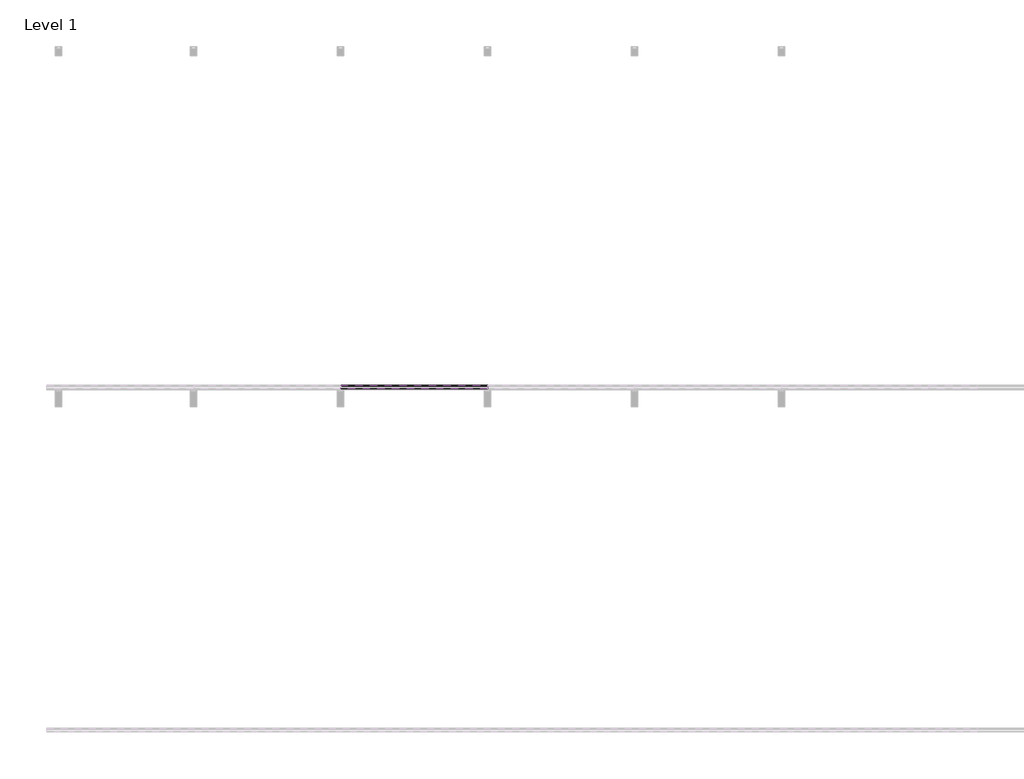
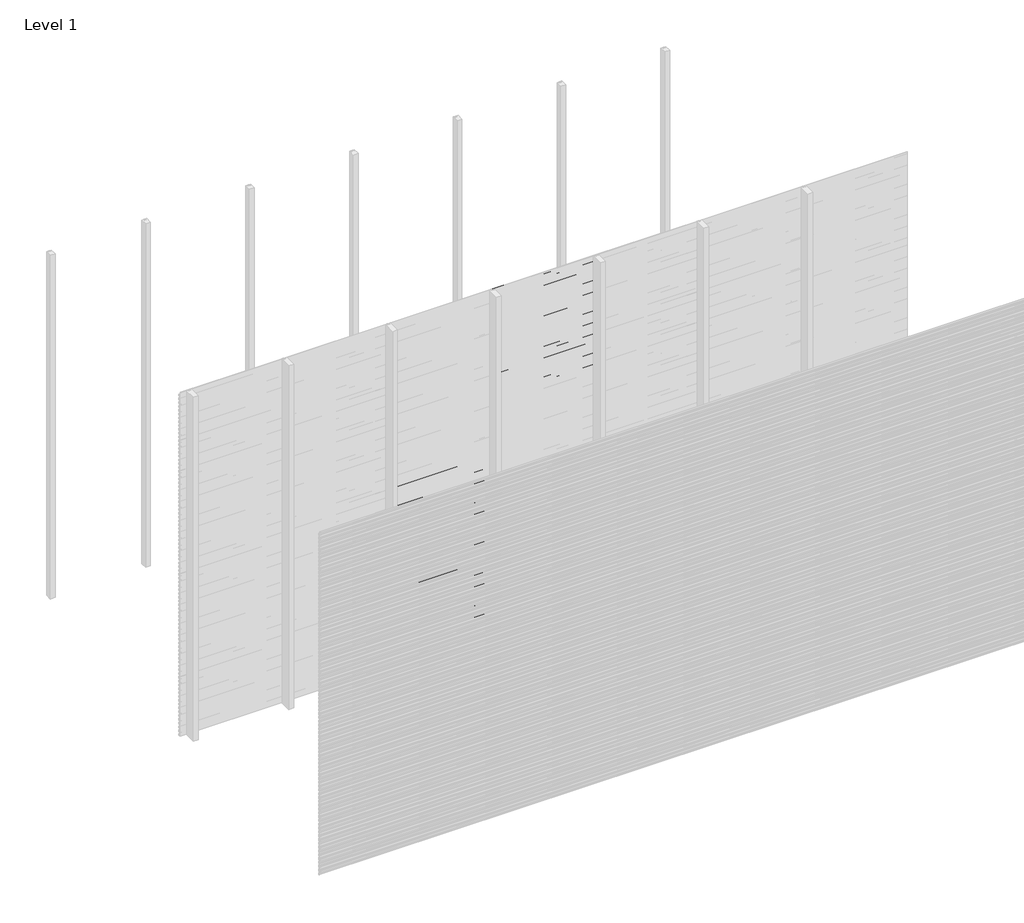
# One storey, part 36 of 96: 77 proxies.
"""IFC4 building model written with IfcOpenShell, lengths in millimetres."""

from ifc_helpers import new_model, si_unit, frame, origin, place, context, project, spatial, polyline, outline, extrude, element, save

model = new_model("IFC4")

# Units and contexts
model_context = context("Model", 3, world=origin())
ifc_project = project(units=[si_unit("LENGTHUNIT", "METRE", prefix="MILLI")], contexts=[model_context])

# Site, building, storey
site = spatial("IfcSite", under=ifc_project)
building = spatial("IfcBuilding", under=site)
storey = spatial("IfcBuildingStorey", under=building, Name="Level 1", Elevation=0.0)

# Proxies
placement = place(None, origin())
element("IfcBuildingElementProxy", 1, Name="Wall Sweeps", at=placement, inside=storey, context=model_context, shape_type="SweptSolid", body=[
    extrude(outline(polyline([(-35977.6, 1573.1655033), (-35977.6, 1558.8779188), (-35982.4114965, 1556.1), (-35982.4114965, 1557.3701706), (-35978.85, 1559.4264016), (-35978.85, 1572.4437382), (-35998.0, 1583.5000799), (-35998.0, 1598.4), (-35996.75, 1598.4), (-35996.75, 1584.2217609), (-35977.6, 1573.1655033)])), frame((1714.2857143, 0.0, 0.0), z_axis=(1.0, 0.0, 0.0), x_axis=(0.0, 1.0, 0.0)), (0.0, 0.0, 1.0), 857.1428571),
])
element("IfcBuildingElementProxy", 2, Name="Wall Sweeps", at=placement, inside=storey, context=model_context, shape_type="SweptSolid", body=[
    extrude(outline(polyline([(-35977.6, 1539.8655033), (-35977.6, 1525.5779188), (-35982.4114965, 1522.8), (-35982.4114965, 1524.0701706), (-35978.85, 1526.1264016), (-35978.85, 1539.1437382), (-35998.0, 1550.2000799), (-35998.0, 1565.1), (-35996.75, 1565.1), (-35996.75, 1550.9217609), (-35977.6, 1539.8655033)])), frame((1714.2857143, 0.0, 0.0), z_axis=(1.0, 0.0, 0.0), x_axis=(0.0, 1.0, 0.0)), (0.0, 0.0, 1.0), 857.1428571),
])
element("IfcBuildingElementProxy", 3, Name="Wall Sweeps", at=placement, inside=storey, context=model_context, shape_type="SweptSolid", body=[
    extrude(outline(polyline([(-35977.6, 1506.5655033), (-35977.6, 1492.2779188), (-35982.4114965, 1489.5), (-35982.4114965, 1490.7701706), (-35978.85, 1492.8264016), (-35978.85, 1505.8437382), (-35998.0, 1516.9000799), (-35998.0, 1531.8), (-35996.75, 1531.8), (-35996.75, 1517.6217609), (-35977.6, 1506.5655033)])), frame((1714.2857143, 0.0, 0.0), z_axis=(1.0, 0.0, 0.0), x_axis=(0.0, 1.0, 0.0)), (0.0, 0.0, 1.0), 857.1428571),
])
element("IfcBuildingElementProxy", 4, Name="Wall Sweeps", at=placement, inside=storey, context=model_context, shape_type="SweptSolid", body=[
    extrude(outline(polyline([(-35977.6, 1473.2655033), (-35977.6, 1458.9779188), (-35982.4114965, 1456.2), (-35982.4114965, 1457.4701706), (-35978.85, 1459.5264016), (-35978.85, 1472.5437382), (-35998.0, 1483.6000799), (-35998.0, 1498.5), (-35996.75, 1498.5), (-35996.75, 1484.3217609), (-35977.6, 1473.2655033)])), frame((1714.2857143, 0.0, 0.0), z_axis=(1.0, 0.0, 0.0), x_axis=(0.0, 1.0, 0.0)), (0.0, 0.0, 1.0), 857.1428571),
])
element("IfcBuildingElementProxy", 5, Name="Wall Sweeps", at=placement, inside=storey, context=model_context, shape_type="SweptSolid", body=[
    extrude(outline(polyline([(-35977.6, 1439.9655033), (-35977.6, 1425.6779188), (-35982.4114965, 1422.9), (-35982.4114965, 1424.1701706), (-35978.85, 1426.2264016), (-35978.85, 1439.2437382), (-35998.0, 1450.3000799), (-35998.0, 1465.2), (-35996.75, 1465.2), (-35996.75, 1451.0217609), (-35977.6, 1439.9655033)])), frame((1714.2857143, 0.0, 0.0), z_axis=(1.0, 0.0, 0.0), x_axis=(0.0, 1.0, 0.0)), (0.0, 0.0, 1.0), 857.1428571),
])
element("IfcBuildingElementProxy", 6, Name="Wall Sweeps", at=placement, inside=storey, context=model_context, shape_type="SweptSolid", body=[
    extrude(outline(polyline([(-35977.6, 1406.6655033), (-35977.6, 1392.3779188), (-35982.4114965, 1389.6), (-35982.4114965, 1390.8701706), (-35978.85, 1392.9264016), (-35978.85, 1405.9437382), (-35998.0, 1417.0000799), (-35998.0, 1431.9), (-35996.75, 1431.9), (-35996.75, 1417.7217609), (-35977.6, 1406.6655033)])), frame((1714.2857143, 0.0, 0.0), z_axis=(1.0, 0.0, 0.0), x_axis=(0.0, 1.0, 0.0)), (0.0, 0.0, 1.0), 857.1428571),
])
element("IfcBuildingElementProxy", 7, Name="Wall Sweeps", at=placement, inside=storey, context=model_context, shape_type="SweptSolid", body=[
    extrude(outline(polyline([(-35977.6, 1373.3655033), (-35977.6, 1359.0779188), (-35982.4114965, 1356.3), (-35982.4114965, 1357.5701706), (-35978.85, 1359.6264016), (-35978.85, 1372.6437382), (-35998.0, 1383.7000799), (-35998.0, 1398.6), (-35996.75, 1398.6), (-35996.75, 1384.4217609), (-35977.6, 1373.3655033)])), frame((1714.2857143, 0.0, 0.0), z_axis=(1.0, 0.0, 0.0), x_axis=(0.0, 1.0, 0.0)), (0.0, 0.0, 1.0), 857.1428571),
])
element("IfcBuildingElementProxy", 8, Name="Wall Sweeps", at=placement, inside=storey, context=model_context, shape_type="SweptSolid", body=[
    extrude(outline(polyline([(-35977.6, 1340.0655033), (-35977.6, 1325.7779188), (-35982.4114965, 1323.0), (-35982.4114965, 1324.2701706), (-35978.85, 1326.3264016), (-35978.85, 1339.3437382), (-35998.0, 1350.4000799), (-35998.0, 1365.3), (-35996.75, 1365.3), (-35996.75, 1351.1217609), (-35977.6, 1340.0655033)])), frame((1714.2857143, 0.0, 0.0), z_axis=(1.0, 0.0, 0.0), x_axis=(0.0, 1.0, 0.0)), (0.0, 0.0, 1.0), 857.1428571),
])
element("IfcBuildingElementProxy", 9, Name="Wall Sweeps", at=placement, inside=storey, context=model_context, shape_type="SweptSolid", body=[
    extrude(outline(polyline([(-35977.6, 1306.7655033), (-35977.6, 1292.4779188), (-35982.4114965, 1289.7), (-35982.4114965, 1290.9701706), (-35978.85, 1293.0264016), (-35978.85, 1306.0437382), (-35998.0, 1317.1000799), (-35998.0, 1332.0), (-35996.75, 1332.0), (-35996.75, 1317.8217609), (-35977.6, 1306.7655033)])), frame((1714.2857143, 0.0, 0.0), z_axis=(1.0, 0.0, 0.0), x_axis=(0.0, 1.0, 0.0)), (0.0, 0.0, 1.0), 857.1428571),
])
element("IfcBuildingElementProxy", 10, Name="Wall Sweeps", at=placement, inside=storey, context=model_context, shape_type="SweptSolid", body=[
    extrude(outline(polyline([(-35977.6, 1273.4655033), (-35977.6, 1259.1779188), (-35982.4114965, 1256.4), (-35982.4114965, 1257.6701706), (-35978.85, 1259.7264016), (-35978.85, 1272.7437382), (-35998.0, 1283.8000799), (-35998.0, 1298.7), (-35996.75, 1298.7), (-35996.75, 1284.5217609), (-35977.6, 1273.4655033)])), frame((1714.2857143, 0.0, 0.0), z_axis=(1.0, 0.0, 0.0), x_axis=(0.0, 1.0, 0.0)), (0.0, 0.0, 1.0), 857.1428571),
])
element("IfcBuildingElementProxy", 11, Name="Wall Sweeps", at=placement, inside=storey, context=model_context, shape_type="SweptSolid", body=[
    extrude(outline(polyline([(-35977.6, 1240.1655033), (-35977.6, 1225.8779188), (-35982.4114965, 1223.1), (-35982.4114965, 1224.3701706), (-35978.85, 1226.4264016), (-35978.85, 1239.4437382), (-35998.0, 1250.5000799), (-35998.0, 1265.4), (-35996.75, 1265.4), (-35996.75, 1251.2217609), (-35977.6, 1240.1655033)])), frame((1714.2857143, 0.0, 0.0), z_axis=(1.0, 0.0, 0.0), x_axis=(0.0, 1.0, 0.0)), (0.0, 0.0, 1.0), 857.1428571),
])
element("IfcBuildingElementProxy", 12, Name="Wall Sweeps", at=placement, inside=storey, context=model_context, shape_type="SweptSolid", body=[
    extrude(outline(polyline([(-35977.6, 1206.8655033), (-35977.6, 1192.5779188), (-35982.4114965, 1189.8), (-35982.4114965, 1191.0701706), (-35978.85, 1193.1264016), (-35978.85, 1206.1437382), (-35998.0, 1217.2000799), (-35998.0, 1232.1), (-35996.75, 1232.1), (-35996.75, 1217.9217609), (-35977.6, 1206.8655033)])), frame((1714.2857143, 0.0, 0.0), z_axis=(1.0, 0.0, 0.0), x_axis=(0.0, 1.0, 0.0)), (0.0, 0.0, 1.0), 857.1428571),
])
element("IfcBuildingElementProxy", 13, Name="Wall Sweeps", at=placement, inside=storey, context=model_context, shape_type="SweptSolid", body=[
    extrude(outline(polyline([(-35977.6, 1173.5655033), (-35977.6, 1159.2779188), (-35982.4114965, 1156.5), (-35982.4114965, 1157.7701706), (-35978.85, 1159.8264016), (-35978.85, 1172.8437382), (-35998.0, 1183.9000799), (-35998.0, 1198.8), (-35996.75, 1198.8), (-35996.75, 1184.6217609), (-35977.6, 1173.5655033)])), frame((1714.2857143, 0.0, 0.0), z_axis=(1.0, 0.0, 0.0), x_axis=(0.0, 1.0, 0.0)), (0.0, 0.0, 1.0), 857.1428571),
])
element("IfcBuildingElementProxy", 14, Name="Wall Sweeps", at=placement, inside=storey, context=model_context, shape_type="SweptSolid", body=[
    extrude(outline(polyline([(-35977.6, 1140.2655033), (-35977.6, 1125.9779188), (-35982.4114965, 1123.2), (-35982.4114965, 1124.4701706), (-35978.85, 1126.5264016), (-35978.85, 1139.5437382), (-35998.0, 1150.6000799), (-35998.0, 1165.5), (-35996.75, 1165.5), (-35996.75, 1151.3217609), (-35977.6, 1140.2655033)])), frame((1714.2857143, 0.0, 0.0), z_axis=(1.0, 0.0, 0.0), x_axis=(0.0, 1.0, 0.0)), (0.0, 0.0, 1.0), 857.1428571),
])
element("IfcBuildingElementProxy", 15, Name="Wall Sweeps", at=placement, inside=storey, context=model_context, shape_type="SweptSolid", body=[
    extrude(outline(polyline([(-35977.6, 1106.9655033), (-35977.6, 1092.6779188), (-35982.4114965, 1089.9), (-35982.4114965, 1091.1701706), (-35978.85, 1093.2264016), (-35978.85, 1106.2437382), (-35998.0, 1117.3000799), (-35998.0, 1132.2), (-35996.75, 1132.2), (-35996.75, 1118.0217609), (-35977.6, 1106.9655033)])), frame((1714.2857143, 0.0, 0.0), z_axis=(1.0, 0.0, 0.0), x_axis=(0.0, 1.0, 0.0)), (0.0, 0.0, 1.0), 857.1428571),
])
element("IfcBuildingElementProxy", 16, Name="Wall Sweeps", at=placement, inside=storey, context=model_context, shape_type="SweptSolid", body=[
    extrude(outline(polyline([(-35977.6, 1073.6655033), (-35977.6, 1059.3779188), (-35982.4114965, 1056.6), (-35982.4114965, 1057.8701706), (-35978.85, 1059.9264016), (-35978.85, 1072.9437382), (-35998.0, 1084.0000799), (-35998.0, 1098.9), (-35996.75, 1098.9), (-35996.75, 1084.7217609), (-35977.6, 1073.6655033)])), frame((1714.2857143, 0.0, 0.0), z_axis=(1.0, 0.0, 0.0), x_axis=(0.0, 1.0, 0.0)), (0.0, 0.0, 1.0), 857.1428571),
])
element("IfcBuildingElementProxy", 17, Name="Wall Sweeps", at=placement, inside=storey, context=model_context, shape_type="SweptSolid", body=[
    extrude(outline(polyline([(-35977.6, 1040.3655033), (-35977.6, 1026.0779188), (-35982.4114965, 1023.3), (-35982.4114965, 1024.5701706), (-35978.85, 1026.6264016), (-35978.85, 1039.6437382), (-35998.0, 1050.7000799), (-35998.0, 1065.6), (-35996.75, 1065.6), (-35996.75, 1051.4217609), (-35977.6, 1040.3655033)])), frame((1714.2857143, 0.0, 0.0), z_axis=(1.0, 0.0, 0.0), x_axis=(0.0, 1.0, 0.0)), (0.0, 0.0, 1.0), 857.1428571),
])
element("IfcBuildingElementProxy", 18, Name="Wall Sweeps", at=placement, inside=storey, context=model_context, shape_type="SweptSolid", body=[
    extrude(outline(polyline([(-35977.6, 1007.0655033), (-35977.6, 992.7779188), (-35982.4114965, 990.0), (-35982.4114965, 991.2701706), (-35978.85, 993.3264016), (-35978.85, 1006.3437382), (-35998.0, 1017.4000799), (-35998.0, 1032.3), (-35996.75, 1032.3), (-35996.75, 1018.1217609), (-35977.6, 1007.0655033)])), frame((1714.2857143, 0.0, 0.0), z_axis=(1.0, 0.0, 0.0), x_axis=(0.0, 1.0, 0.0)), (0.0, 0.0, 1.0), 857.1428571),
])
element("IfcBuildingElementProxy", 19, Name="Wall Sweeps", at=placement, inside=storey, context=model_context, shape_type="SweptSolid", body=[
    extrude(outline(polyline([(-35977.6, 973.7655033), (-35977.6, 959.4779188), (-35982.4114965, 956.7), (-35982.4114965, 957.9701706), (-35978.85, 960.0264016), (-35978.85, 973.0437382), (-35998.0, 984.1000799), (-35998.0, 999.0), (-35996.75, 999.0), (-35996.75, 984.8217609), (-35977.6, 973.7655033)])), frame((1714.2857143, 0.0, 0.0), z_axis=(1.0, 0.0, 0.0), x_axis=(0.0, 1.0, 0.0)), (0.0, 0.0, 1.0), 857.1428571),
])
element("IfcBuildingElementProxy", 20, Name="Wall Sweeps", at=placement, inside=storey, context=model_context, shape_type="SweptSolid", body=[
    extrude(outline(polyline([(-35977.6, 940.4655033), (-35977.6, 926.1779188), (-35982.4114965, 923.4), (-35982.4114965, 924.6701706), (-35978.85, 926.7264016), (-35978.85, 939.7437382), (-35998.0, 950.8000799), (-35998.0, 965.7), (-35996.75, 965.7), (-35996.75, 951.5217609), (-35977.6, 940.4655033)])), frame((1714.2857143, 0.0, 0.0), z_axis=(1.0, 0.0, 0.0), x_axis=(0.0, 1.0, 0.0)), (0.0, 0.0, 1.0), 857.1428571),
])
element("IfcBuildingElementProxy", 21, Name="Wall Sweeps", at=placement, inside=storey, context=model_context, shape_type="SweptSolid", body=[
    extrude(outline(polyline([(-35977.6, 907.1655033), (-35977.6, 892.8779188), (-35982.4114965, 890.1), (-35982.4114965, 891.3701706), (-35978.85, 893.4264016), (-35978.85, 906.4437382), (-35998.0, 917.5000799), (-35998.0, 932.4), (-35996.75, 932.4), (-35996.75, 918.2217609), (-35977.6, 907.1655033)])), frame((1714.2857143, 0.0, 0.0), z_axis=(1.0, 0.0, 0.0), x_axis=(0.0, 1.0, 0.0)), (0.0, 0.0, 1.0), 857.1428571),
])
element("IfcBuildingElementProxy", 22, Name="Wall Sweeps", at=placement, inside=storey, context=model_context, shape_type="SweptSolid", body=[
    extrude(outline(polyline([(-35977.6, 873.8655033), (-35977.6, 859.5779188), (-35982.4114965, 856.8), (-35982.4114965, 858.0701706), (-35978.85, 860.1264016), (-35978.85, 873.1437382), (-35998.0, 884.2000799), (-35998.0, 899.1), (-35996.75, 899.1), (-35996.75, 884.9217609), (-35977.6, 873.8655033)])), frame((1714.2857143, 0.0, 0.0), z_axis=(1.0, 0.0, 0.0), x_axis=(0.0, 1.0, 0.0)), (0.0, 0.0, 1.0), 857.1428571),
])
element("IfcBuildingElementProxy", 23, Name="Wall Sweeps", at=placement, inside=storey, context=model_context, shape_type="SweptSolid", body=[
    extrude(outline(polyline([(-35977.6, 840.5655033), (-35977.6, 826.2779188), (-35982.4114965, 823.5), (-35982.4114965, 824.7701706), (-35978.85, 826.8264016), (-35978.85, 839.8437382), (-35998.0, 850.9000799), (-35998.0, 865.8), (-35996.75, 865.8), (-35996.75, 851.6217609), (-35977.6, 840.5655033)])), frame((1714.2857143, 0.0, 0.0), z_axis=(1.0, 0.0, 0.0), x_axis=(0.0, 1.0, 0.0)), (0.0, 0.0, 1.0), 857.1428571),
])
element("IfcBuildingElementProxy", 24, Name="Wall Sweeps", at=placement, inside=storey, context=model_context, shape_type="SweptSolid", body=[
    extrude(outline(polyline([(-35977.6, 807.2655033), (-35977.6, 792.9779188), (-35982.4114965, 790.2), (-35982.4114965, 791.4701706), (-35978.85, 793.5264016), (-35978.85, 806.5437382), (-35998.0, 817.6000799), (-35998.0, 832.5), (-35996.75, 832.5), (-35996.75, 818.3217609), (-35977.6, 807.2655033)])), frame((1714.2857143, 0.0, 0.0), z_axis=(1.0, 0.0, 0.0), x_axis=(0.0, 1.0, 0.0)), (0.0, 0.0, 1.0), 857.1428571),
])
element("IfcBuildingElementProxy", 25, Name="Wall Sweeps", at=placement, inside=storey, context=model_context, shape_type="SweptSolid", body=[
    extrude(outline(polyline([(-35977.6, 773.9655033), (-35977.6, 759.6779188), (-35982.4114965, 756.9), (-35982.4114965, 758.1701706), (-35978.85, 760.2264016), (-35978.85, 773.2437382), (-35998.0, 784.3000799), (-35998.0, 799.2), (-35996.75, 799.2), (-35996.75, 785.0217609), (-35977.6, 773.9655033)])), frame((1714.2857143, 0.0, 0.0), z_axis=(1.0, 0.0, 0.0), x_axis=(0.0, 1.0, 0.0)), (0.0, 0.0, 1.0), 857.1428571),
])
element("IfcBuildingElementProxy", 26, Name="Wall Sweeps", at=placement, inside=storey, context=model_context, shape_type="SweptSolid", body=[
    extrude(outline(polyline([(-35977.6, 740.6655033), (-35977.6, 726.3779188), (-35982.4114965, 723.6), (-35982.4114965, 724.8701706), (-35978.85, 726.9264016), (-35978.85, 739.9437382), (-35998.0, 751.0000799), (-35998.0, 765.9), (-35996.75, 765.9), (-35996.75, 751.7217609), (-35977.6, 740.6655033)])), frame((1714.2857143, 0.0, 0.0), z_axis=(1.0, 0.0, 0.0), x_axis=(0.0, 1.0, 0.0)), (0.0, 0.0, 1.0), 857.1428571),
])
element("IfcBuildingElementProxy", 27, Name="Wall Sweeps", at=placement, inside=storey, context=model_context, shape_type="SweptSolid", body=[
    extrude(outline(polyline([(-35977.6, 707.3655033), (-35977.6, 693.0779188), (-35982.4114965, 690.3), (-35982.4114965, 691.5701706), (-35978.85, 693.6264016), (-35978.85, 706.6437382), (-35998.0, 717.7000799), (-35998.0, 732.6), (-35996.75, 732.6), (-35996.75, 718.4217609), (-35977.6, 707.3655033)])), frame((1714.2857143, 0.0, 0.0), z_axis=(1.0, 0.0, 0.0), x_axis=(0.0, 1.0, 0.0)), (0.0, 0.0, 1.0), 857.1428571),
])
element("IfcBuildingElementProxy", 28, Name="Wall Sweeps", at=placement, inside=storey, context=model_context, shape_type="SweptSolid", body=[
    extrude(outline(polyline([(-35977.6, 674.0655033), (-35977.6, 659.7779188), (-35982.4114965, 657.0), (-35982.4114965, 658.2701706), (-35978.85, 660.3264016), (-35978.85, 673.3437382), (-35998.0, 684.4000799), (-35998.0, 699.3), (-35996.75, 699.3), (-35996.75, 685.1217609), (-35977.6, 674.0655033)])), frame((1714.2857143, 0.0, 0.0), z_axis=(1.0, 0.0, 0.0), x_axis=(0.0, 1.0, 0.0)), (0.0, 0.0, 1.0), 857.1428571),
])
element("IfcBuildingElementProxy", 29, Name="Wall Sweeps", at=placement, inside=storey, context=model_context, shape_type="SweptSolid", body=[
    extrude(outline(polyline([(-35977.6, 640.7655033), (-35977.6, 626.4779188), (-35982.4114965, 623.7), (-35982.4114965, 624.9701706), (-35978.85, 627.0264016), (-35978.85, 640.0437382), (-35998.0, 651.1000799), (-35998.0, 666.0), (-35996.75, 666.0), (-35996.75, 651.8217609), (-35977.6, 640.7655033)])), frame((1714.2857143, 0.0, 0.0), z_axis=(1.0, 0.0, 0.0), x_axis=(0.0, 1.0, 0.0)), (0.0, 0.0, 1.0), 857.1428571),
])
element("IfcBuildingElementProxy", 30, Name="Wall Sweeps", at=placement, inside=storey, context=model_context, shape_type="SweptSolid", body=[
    extrude(outline(polyline([(-35977.6, 607.4655033), (-35977.6, 593.1779188), (-35982.4114965, 590.4), (-35982.4114965, 591.6701706), (-35978.85, 593.7264016), (-35978.85, 606.7437382), (-35998.0, 617.8000799), (-35998.0, 632.7), (-35996.75, 632.7), (-35996.75, 618.5217609), (-35977.6, 607.4655033)])), frame((1714.2857143, 0.0, 0.0), z_axis=(1.0, 0.0, 0.0), x_axis=(0.0, 1.0, 0.0)), (0.0, 0.0, 1.0), 857.1428571),
])
element("IfcBuildingElementProxy", 31, Name="Wall Sweeps", at=placement, inside=storey, context=model_context, shape_type="SweptSolid", body=[
    extrude(outline(polyline([(-35977.6, 574.1655033), (-35977.6, 559.8779188), (-35982.4114965, 557.1), (-35982.4114965, 558.3701706), (-35978.85, 560.4264016), (-35978.85, 573.4437382), (-35998.0, 584.5000799), (-35998.0, 599.4), (-35996.75, 599.4), (-35996.75, 585.2217609), (-35977.6, 574.1655033)])), frame((1714.2857143, 0.0, 0.0), z_axis=(1.0, 0.0, 0.0), x_axis=(0.0, 1.0, 0.0)), (0.0, 0.0, 1.0), 857.1428571),
])
element("IfcBuildingElementProxy", 32, Name="Wall Sweeps", at=placement, inside=storey, context=model_context, shape_type="SweptSolid", body=[
    extrude(outline(polyline([(-35977.6, 540.8655033), (-35977.6, 526.5779188), (-35982.4114965, 523.8), (-35982.4114965, 525.0701706), (-35978.85, 527.1264016), (-35978.85, 540.1437382), (-35998.0, 551.2000799), (-35998.0, 566.1), (-35996.75, 566.1), (-35996.75, 551.9217609), (-35977.6, 540.8655033)])), frame((1714.2857143, 0.0, 0.0), z_axis=(1.0, 0.0, 0.0), x_axis=(0.0, 1.0, 0.0)), (0.0, 0.0, 1.0), 857.1428571),
])
element("IfcBuildingElementProxy", 33, Name="Wall Sweeps", at=placement, inside=storey, context=model_context, shape_type="SweptSolid", body=[
    extrude(outline(polyline([(-35977.6, 507.5655033), (-35977.6, 493.2779188), (-35982.4114965, 490.5), (-35982.4114965, 491.7701706), (-35978.85, 493.8264016), (-35978.85, 506.8437382), (-35998.0, 517.9000799), (-35998.0, 532.8), (-35996.75, 532.8), (-35996.75, 518.6217609), (-35977.6, 507.5655033)])), frame((1714.2857143, 0.0, 0.0), z_axis=(1.0, 0.0, 0.0), x_axis=(0.0, 1.0, 0.0)), (0.0, 0.0, 1.0), 857.1428571),
])
element("IfcBuildingElementProxy", 34, Name="Wall Sweeps", at=placement, inside=storey, context=model_context, shape_type="SweptSolid", body=[
    extrude(outline(polyline([(-35977.6, 474.2655033), (-35977.6, 459.9779188), (-35982.4114965, 457.2), (-35982.4114965, 458.4701706), (-35978.85, 460.5264016), (-35978.85, 473.5437382), (-35998.0, 484.6000799), (-35998.0, 499.5), (-35996.75, 499.5), (-35996.75, 485.3217609), (-35977.6, 474.2655033)])), frame((1714.2857143, 0.0, 0.0), z_axis=(1.0, 0.0, 0.0), x_axis=(0.0, 1.0, 0.0)), (0.0, 0.0, 1.0), 857.1428571),
])
element("IfcBuildingElementProxy", 35, Name="Wall Sweeps", at=placement, inside=storey, context=model_context, shape_type="SweptSolid", body=[
    extrude(outline(polyline([(-35977.6, 440.9655033), (-35977.6, 426.6779188), (-35982.4114965, 423.9), (-35982.4114965, 425.1701706), (-35978.85, 427.2264016), (-35978.85, 440.2437382), (-35998.0, 451.3000799), (-35998.0, 466.2), (-35996.75, 466.2), (-35996.75, 452.0217609), (-35977.6, 440.9655033)])), frame((1714.2857143, 0.0, 0.0), z_axis=(1.0, 0.0, 0.0), x_axis=(0.0, 1.0, 0.0)), (0.0, 0.0, 1.0), 857.1428571),
])
element("IfcBuildingElementProxy", 36, Name="Wall Sweeps", at=placement, inside=storey, context=model_context, shape_type="SweptSolid", body=[
    extrude(outline(polyline([(-35977.6, 407.6655033), (-35977.6, 393.3779188), (-35982.4114965, 390.6), (-35982.4114965, 391.8701706), (-35978.85, 393.9264016), (-35978.85, 406.9437382), (-35998.0, 418.0000799), (-35998.0, 432.9), (-35996.75, 432.9), (-35996.75, 418.7217609), (-35977.6, 407.6655033)])), frame((1714.2857143, 0.0, 0.0), z_axis=(1.0, 0.0, 0.0), x_axis=(0.0, 1.0, 0.0)), (0.0, 0.0, 1.0), 857.1428571),
])
element("IfcBuildingElementProxy", 37, Name="Wall Sweeps", at=placement, inside=storey, context=model_context, shape_type="SweptSolid", body=[
    extrude(outline(polyline([(-35977.6, 374.3655033), (-35977.6, 360.0779188), (-35982.4114965, 357.3), (-35982.4114965, 358.5701706), (-35978.85, 360.6264016), (-35978.85, 373.6437382), (-35998.0, 384.7000799), (-35998.0, 399.6), (-35996.75, 399.6), (-35996.75, 385.4217609), (-35977.6, 374.3655033)])), frame((1714.2857143, 0.0, 0.0), z_axis=(1.0, 0.0, 0.0), x_axis=(0.0, 1.0, 0.0)), (0.0, 0.0, 1.0), 857.1428571),
])
element("IfcBuildingElementProxy", 38, Name="Wall Sweeps", at=placement, inside=storey, context=model_context, shape_type="SweptSolid", body=[
    extrude(outline(polyline([(-35977.6, 341.0655033), (-35977.6, 326.7779188), (-35982.4114965, 324.0), (-35982.4114965, 325.2701706), (-35978.85, 327.3264016), (-35978.85, 340.3437382), (-35998.0, 351.4000799), (-35998.0, 366.3), (-35996.75, 366.3), (-35996.75, 352.1217609), (-35977.6, 341.0655033)])), frame((1714.2857143, 0.0, 0.0), z_axis=(1.0, 0.0, 0.0), x_axis=(0.0, 1.0, 0.0)), (0.0, 0.0, 1.0), 857.1428571),
])
element("IfcBuildingElementProxy", 39, Name="Wall Sweeps", at=placement, inside=storey, context=model_context, shape_type="SweptSolid", body=[
    extrude(outline(polyline([(-35977.6, 307.7655033), (-35977.6, 293.4779188), (-35982.4114965, 290.7), (-35982.4114965, 291.9701706), (-35978.85, 294.0264016), (-35978.85, 307.0437382), (-35998.0, 318.1000799), (-35998.0, 333.0), (-35996.75, 333.0), (-35996.75, 318.8217609), (-35977.6, 307.7655033)])), frame((1714.2857143, 0.0, 0.0), z_axis=(1.0, 0.0, 0.0), x_axis=(0.0, 1.0, 0.0)), (0.0, 0.0, 1.0), 857.1428571),
])
element("IfcBuildingElementProxy", 40, Name="Wall Sweeps", at=placement, inside=storey, context=model_context, shape_type="SweptSolid", body=[
    extrude(outline(polyline([(-35977.6, 274.4655033), (-35977.6, 260.1779188), (-35982.4114965, 257.4), (-35982.4114965, 258.6701706), (-35978.85, 260.7264016), (-35978.85, 273.7437382), (-35998.0, 284.8000799), (-35998.0, 299.7), (-35996.75, 299.7), (-35996.75, 285.5217609), (-35977.6, 274.4655033)])), frame((1714.2857143, 0.0, 0.0), z_axis=(1.0, 0.0, 0.0), x_axis=(0.0, 1.0, 0.0)), (0.0, 0.0, 1.0), 857.1428571),
])
element("IfcBuildingElementProxy", 41, Name="Wall Sweeps", at=placement, inside=storey, context=model_context, shape_type="SweptSolid", body=[
    extrude(outline(polyline([(-35977.6, 241.1655033), (-35977.6, 226.8779188), (-35982.4114965, 224.1), (-35982.4114965, 225.3701706), (-35978.85, 227.4264016), (-35978.85, 240.4437382), (-35998.0, 251.5000799), (-35998.0, 266.4), (-35996.75, 266.4), (-35996.75, 252.2217609), (-35977.6, 241.1655033)])), frame((1714.2857143, 0.0, 0.0), z_axis=(1.0, 0.0, 0.0), x_axis=(0.0, 1.0, 0.0)), (0.0, 0.0, 1.0), 857.1428571),
])
element("IfcBuildingElementProxy", 42, Name="Wall Sweeps", at=placement, inside=storey, context=model_context, shape_type="SweptSolid", body=[
    extrude(outline(polyline([(-35977.6, 207.8655033), (-35977.6, 193.5779188), (-35982.4114965, 190.8), (-35982.4114965, 192.0701706), (-35978.85, 194.1264016), (-35978.85, 207.1437382), (-35998.0, 218.2000799), (-35998.0, 233.1), (-35996.75, 233.1), (-35996.75, 218.9217609), (-35977.6, 207.8655033)])), frame((1714.2857143, 0.0, 0.0), z_axis=(1.0, 0.0, 0.0), x_axis=(0.0, 1.0, 0.0)), (0.0, 0.0, 1.0), 857.1428571),
])
element("IfcBuildingElementProxy", 43, Name="Wall Sweeps", at=placement, inside=storey, context=model_context, shape_type="SweptSolid", body=[
    extrude(outline(polyline([(-35977.6, 174.5655033), (-35977.6, 160.2779188), (-35982.4114965, 157.5), (-35982.4114965, 158.7701706), (-35978.85, 160.8264016), (-35978.85, 173.8437382), (-35998.0, 184.9000799), (-35998.0, 199.8), (-35996.75, 199.8), (-35996.75, 185.6217609), (-35977.6, 174.5655033)])), frame((1714.2857143, 0.0, 0.0), z_axis=(1.0, 0.0, 0.0), x_axis=(0.0, 1.0, 0.0)), (0.0, 0.0, 1.0), 857.1428571),
])
element("IfcBuildingElementProxy", 44, Name="Wall Sweeps", at=placement, inside=storey, context=model_context, shape_type="SweptSolid", body=[
    extrude(outline(polyline([(-35977.6, 141.2655033), (-35977.6, 126.9779188), (-35982.4114965, 124.2), (-35982.4114965, 125.4701706), (-35978.85, 127.5264016), (-35978.85, 140.5437382), (-35998.0, 151.6000799), (-35998.0, 166.5), (-35996.75, 166.5), (-35996.75, 152.3217609), (-35977.6, 141.2655033)])), frame((1714.2857143, 0.0, 0.0), z_axis=(1.0, 0.0, 0.0), x_axis=(0.0, 1.0, 0.0)), (0.0, 0.0, 1.0), 857.1428571),
])
element("IfcBuildingElementProxy", 45, Name="Wall Sweeps", at=placement, inside=storey, context=model_context, shape_type="SweptSolid", body=[
    extrude(outline(polyline([(-35977.6, 107.9655033), (-35977.6, 93.6779188), (-35982.4114965, 90.9), (-35982.4114965, 92.1701706), (-35978.85, 94.2264016), (-35978.85, 107.2437382), (-35998.0, 118.3000799), (-35998.0, 133.2), (-35996.75, 133.2), (-35996.75, 119.0217609), (-35977.6, 107.9655033)])), frame((1714.2857143, 0.0, 0.0), z_axis=(1.0, 0.0, 0.0), x_axis=(0.0, 1.0, 0.0)), (0.0, 0.0, 1.0), 857.1428571),
])
element("IfcBuildingElementProxy", 46, Name="Wall Sweeps", at=placement, inside=storey, context=model_context, shape_type="SweptSolid", body=[
    extrude(outline(polyline([(-35977.6, 74.6655033), (-35977.6, 60.3779188), (-35982.4114965, 57.6), (-35982.4114965, 58.8701706), (-35978.85, 60.9264016), (-35978.85, 73.9437382), (-35998.0, 85.0000799), (-35998.0, 99.9), (-35996.75, 99.9), (-35996.75, 85.7217609), (-35977.6, 74.6655033)])), frame((1714.2857143, 0.0, 0.0), z_axis=(1.0, 0.0, 0.0), x_axis=(0.0, 1.0, 0.0)), (0.0, 0.0, 1.0), 857.1428571),
])
element("IfcBuildingElementProxy", 47, Name="Wall Sweeps", at=placement, inside=storey, context=model_context, shape_type="SweptSolid", body=[
    extrude(outline(polyline([(-35977.6, 41.3655033), (-35977.6, 27.0779188), (-35982.4114965, 24.3), (-35982.4114965, 25.5701706), (-35978.85, 27.6264016), (-35978.85, 40.6437382), (-35998.0, 51.7000799), (-35998.0, 66.6), (-35996.75, 66.6), (-35996.75, 52.4217609), (-35977.6, 41.3655033)])), frame((1714.2857143, 0.0, 0.0), z_axis=(1.0, 0.0, 0.0), x_axis=(0.0, 1.0, 0.0)), (0.0, 0.0, 1.0), 857.1428571),
])
element("IfcBuildingElementProxy", 48, Name="Wall Sweeps", at=placement, inside=storey, context=model_context, shape_type="SweptSolid", body=[
    extrude(outline(polyline([(-35977.6, 8.0655033), (-35977.6, -6.2220812), (-35982.4114965, -9.0), (-35982.4114965, -7.7298294), (-35978.85, -5.6735984), (-35978.85, 7.3437382), (-35998.0, 18.4000799), (-35998.0, 33.3), (-35996.75, 33.3), (-35996.75, 19.1217609), (-35977.6, 8.0655033)])), frame((1714.2857143, 0.0, 0.0), z_axis=(1.0, 0.0, 0.0), x_axis=(0.0, 1.0, 0.0)), (0.0, 0.0, 1.0), 857.1428571),
])
element("IfcBuildingElementProxy", 49, Name="Wall Sweeps", at=placement, inside=storey, context=model_context, shape_type="SweptSolid", body=[
    extrude(outline(polyline([(-35977.6, 2971.7655033), (-35977.6, 2957.4779188), (-35982.4114965, 2954.7), (-35982.4114965, 2955.9701706), (-35978.85, 2958.0264016), (-35978.85, 2971.0437382), (-35998.0, 2982.1000799), (-35998.0, 2997.0), (-35996.75, 2997.0), (-35996.75, 2982.8217609), (-35977.6, 2971.7655033)])), frame((2571.4285714, 0.0, 0.0), z_axis=(1.0, 0.0, 0.0), x_axis=(0.0, 1.0, 0.0)), (0.0, 0.0, 1.0), 857.1428571),
])
element("IfcBuildingElementProxy", 50, Name="Wall Sweeps", at=placement, inside=storey, context=model_context, shape_type="SweptSolid", body=[
    extrude(outline(polyline([(-35977.6, 2938.4655033), (-35977.6, 2924.1779188), (-35982.4114965, 2921.4), (-35982.4114965, 2922.6701706), (-35978.85, 2924.7264016), (-35978.85, 2937.7437382), (-35998.0, 2948.8000799), (-35998.0, 2963.7), (-35996.75, 2963.7), (-35996.75, 2949.5217609), (-35977.6, 2938.4655033)])), frame((2571.4285714, 0.0, 0.0), z_axis=(1.0, 0.0, 0.0), x_axis=(0.0, 1.0, 0.0)), (0.0, 0.0, 1.0), 857.1428571),
])
element("IfcBuildingElementProxy", 51, Name="Wall Sweeps", at=placement, inside=storey, context=model_context, shape_type="SweptSolid", body=[
    extrude(outline(polyline([(-35977.6, 2905.1655033), (-35977.6, 2890.8779188), (-35982.4114965, 2888.1), (-35982.4114965, 2889.3701706), (-35978.85, 2891.4264016), (-35978.85, 2904.4437382), (-35998.0, 2915.5000799), (-35998.0, 2930.4), (-35996.75, 2930.4), (-35996.75, 2916.2217609), (-35977.6, 2905.1655033)])), frame((2571.4285714, 0.0, 0.0), z_axis=(1.0, 0.0, 0.0), x_axis=(0.0, 1.0, 0.0)), (0.0, 0.0, 1.0), 857.1428571),
])
element("IfcBuildingElementProxy", 52, Name="Wall Sweeps", at=placement, inside=storey, context=model_context, shape_type="SweptSolid", body=[
    extrude(outline(polyline([(-35977.6, 2871.8655033), (-35977.6, 2857.5779188), (-35982.4114965, 2854.8), (-35982.4114965, 2856.0701706), (-35978.85, 2858.1264016), (-35978.85, 2871.1437382), (-35998.0, 2882.2000799), (-35998.0, 2897.1), (-35996.75, 2897.1), (-35996.75, 2882.9217609), (-35977.6, 2871.8655033)])), frame((2571.4285714, 0.0, 0.0), z_axis=(1.0, 0.0, 0.0), x_axis=(0.0, 1.0, 0.0)), (0.0, 0.0, 1.0), 857.1428571),
])
element("IfcBuildingElementProxy", 53, Name="Wall Sweeps", at=placement, inside=storey, context=model_context, shape_type="SweptSolid", body=[
    extrude(outline(polyline([(-35977.6, 2838.5655033), (-35977.6, 2824.2779188), (-35982.4114965, 2821.5), (-35982.4114965, 2822.7701706), (-35978.85, 2824.8264016), (-35978.85, 2837.8437382), (-35998.0, 2848.9000799), (-35998.0, 2863.8), (-35996.75, 2863.8), (-35996.75, 2849.6217609), (-35977.6, 2838.5655033)])), frame((2571.4285714, 0.0, 0.0), z_axis=(1.0, 0.0, 0.0), x_axis=(0.0, 1.0, 0.0)), (0.0, 0.0, 1.0), 857.1428571),
])
element("IfcBuildingElementProxy", 54, Name="Wall Sweeps", at=placement, inside=storey, context=model_context, shape_type="SweptSolid", body=[
    extrude(outline(polyline([(-35977.6, 2805.2655033), (-35977.6, 2790.9779188), (-35982.4114965, 2788.2), (-35982.4114965, 2789.4701706), (-35978.85, 2791.5264016), (-35978.85, 2804.5437382), (-35998.0, 2815.6000799), (-35998.0, 2830.5), (-35996.75, 2830.5), (-35996.75, 2816.3217609), (-35977.6, 2805.2655033)])), frame((2571.4285714, 0.0, 0.0), z_axis=(1.0, 0.0, 0.0), x_axis=(0.0, 1.0, 0.0)), (0.0, 0.0, 1.0), 857.1428571),
])
element("IfcBuildingElementProxy", 55, Name="Wall Sweeps", at=placement, inside=storey, context=model_context, shape_type="SweptSolid", body=[
    extrude(outline(polyline([(-35977.6, 2771.9655033), (-35977.6, 2757.6779188), (-35982.4114965, 2754.9), (-35982.4114965, 2756.1701706), (-35978.85, 2758.2264016), (-35978.85, 2771.2437382), (-35998.0, 2782.3000799), (-35998.0, 2797.2), (-35996.75, 2797.2), (-35996.75, 2783.0217609), (-35977.6, 2771.9655033)])), frame((2571.4285714, 0.0, 0.0), z_axis=(1.0, 0.0, 0.0), x_axis=(0.0, 1.0, 0.0)), (0.0, 0.0, 1.0), 857.1428571),
])
element("IfcBuildingElementProxy", 56, Name="Wall Sweeps", at=placement, inside=storey, context=model_context, shape_type="SweptSolid", body=[
    extrude(outline(polyline([(-35977.6, 2738.6655033), (-35977.6, 2724.3779188), (-35982.4114965, 2721.6), (-35982.4114965, 2722.8701706), (-35978.85, 2724.9264016), (-35978.85, 2737.9437382), (-35998.0, 2749.0000799), (-35998.0, 2763.9), (-35996.75, 2763.9), (-35996.75, 2749.7217609), (-35977.6, 2738.6655033)])), frame((2571.4285714, 0.0, 0.0), z_axis=(1.0, 0.0, 0.0), x_axis=(0.0, 1.0, 0.0)), (0.0, 0.0, 1.0), 857.1428571),
])
element("IfcBuildingElementProxy", 57, Name="Wall Sweeps", at=placement, inside=storey, context=model_context, shape_type="SweptSolid", body=[
    extrude(outline(polyline([(-35977.6, 2705.3655033), (-35977.6, 2691.0779188), (-35982.4114965, 2688.3), (-35982.4114965, 2689.5701706), (-35978.85, 2691.6264016), (-35978.85, 2704.6437382), (-35998.0, 2715.7000799), (-35998.0, 2730.6), (-35996.75, 2730.6), (-35996.75, 2716.4217609), (-35977.6, 2705.3655033)])), frame((2571.4285714, 0.0, 0.0), z_axis=(1.0, 0.0, 0.0), x_axis=(0.0, 1.0, 0.0)), (0.0, 0.0, 1.0), 857.1428571),
])
element("IfcBuildingElementProxy", 58, Name="Wall Sweeps", at=placement, inside=storey, context=model_context, shape_type="SweptSolid", body=[
    extrude(outline(polyline([(-35977.6, 2672.0655033), (-35977.6, 2657.7779188), (-35982.4114965, 2655.0), (-35982.4114965, 2656.2701706), (-35978.85, 2658.3264016), (-35978.85, 2671.3437382), (-35998.0, 2682.4000799), (-35998.0, 2697.3), (-35996.75, 2697.3), (-35996.75, 2683.1217609), (-35977.6, 2672.0655033)])), frame((2571.4285714, 0.0, 0.0), z_axis=(1.0, 0.0, 0.0), x_axis=(0.0, 1.0, 0.0)), (0.0, 0.0, 1.0), 857.1428571),
])
element("IfcBuildingElementProxy", 59, Name="Wall Sweeps", at=placement, inside=storey, context=model_context, shape_type="SweptSolid", body=[
    extrude(outline(polyline([(-35977.6, 2638.7655033), (-35977.6, 2624.4779188), (-35982.4114965, 2621.7), (-35982.4114965, 2622.9701706), (-35978.85, 2625.0264016), (-35978.85, 2638.0437382), (-35998.0, 2649.1000799), (-35998.0, 2664.0), (-35996.75, 2664.0), (-35996.75, 2649.8217609), (-35977.6, 2638.7655033)])), frame((2571.4285714, 0.0, 0.0), z_axis=(1.0, 0.0, 0.0), x_axis=(0.0, 1.0, 0.0)), (0.0, 0.0, 1.0), 857.1428571),
])
element("IfcBuildingElementProxy", 60, Name="Wall Sweeps", at=placement, inside=storey, context=model_context, shape_type="SweptSolid", body=[
    extrude(outline(polyline([(-35977.6, 2605.4655033), (-35977.6, 2591.1779188), (-35982.4114965, 2588.4), (-35982.4114965, 2589.6701706), (-35978.85, 2591.7264016), (-35978.85, 2604.7437382), (-35998.0, 2615.8000799), (-35998.0, 2630.7), (-35996.75, 2630.7), (-35996.75, 2616.5217609), (-35977.6, 2605.4655033)])), frame((2571.4285714, 0.0, 0.0), z_axis=(1.0, 0.0, 0.0), x_axis=(0.0, 1.0, 0.0)), (0.0, 0.0, 1.0), 857.1428571),
])
element("IfcBuildingElementProxy", 61, Name="Wall Sweeps", at=placement, inside=storey, context=model_context, shape_type="SweptSolid", body=[
    extrude(outline(polyline([(-35977.6, 2572.1655033), (-35977.6, 2557.8779188), (-35982.4114965, 2555.1), (-35982.4114965, 2556.3701706), (-35978.85, 2558.4264016), (-35978.85, 2571.4437382), (-35998.0, 2582.5000799), (-35998.0, 2597.4), (-35996.75, 2597.4), (-35996.75, 2583.2217609), (-35977.6, 2572.1655033)])), frame((2571.4285714, 0.0, 0.0), z_axis=(1.0, 0.0, 0.0), x_axis=(0.0, 1.0, 0.0)), (0.0, 0.0, 1.0), 857.1428571),
])
element("IfcBuildingElementProxy", 62, Name="Wall Sweeps", at=placement, inside=storey, context=model_context, shape_type="SweptSolid", body=[
    extrude(outline(polyline([(-35977.6, 2538.8655033), (-35977.6, 2524.5779188), (-35982.4114965, 2521.8), (-35982.4114965, 2523.0701706), (-35978.85, 2525.1264016), (-35978.85, 2538.1437382), (-35998.0, 2549.2000799), (-35998.0, 2564.1), (-35996.75, 2564.1), (-35996.75, 2549.9217609), (-35977.6, 2538.8655033)])), frame((2571.4285714, 0.0, 0.0), z_axis=(1.0, 0.0, 0.0), x_axis=(0.0, 1.0, 0.0)), (0.0, 0.0, 1.0), 857.1428571),
])
element("IfcBuildingElementProxy", 63, Name="Wall Sweeps", at=placement, inside=storey, context=model_context, shape_type="SweptSolid", body=[
    extrude(outline(polyline([(-35977.6, 2505.5655033), (-35977.6, 2491.2779188), (-35982.4114965, 2488.5), (-35982.4114965, 2489.7701706), (-35978.85, 2491.8264016), (-35978.85, 2504.8437382), (-35998.0, 2515.9000799), (-35998.0, 2530.8), (-35996.75, 2530.8), (-35996.75, 2516.6217609), (-35977.6, 2505.5655033)])), frame((2571.4285714, 0.0, 0.0), z_axis=(1.0, 0.0, 0.0), x_axis=(0.0, 1.0, 0.0)), (0.0, 0.0, 1.0), 857.1428571),
])
element("IfcBuildingElementProxy", 64, Name="Wall Sweeps", at=placement, inside=storey, context=model_context, shape_type="SweptSolid", body=[
    extrude(outline(polyline([(-35977.6, 2472.2655033), (-35977.6, 2457.9779188), (-35982.4114965, 2455.2), (-35982.4114965, 2456.4701706), (-35978.85, 2458.5264016), (-35978.85, 2471.5437382), (-35998.0, 2482.6000799), (-35998.0, 2497.5), (-35996.75, 2497.5), (-35996.75, 2483.3217609), (-35977.6, 2472.2655033)])), frame((2571.4285714, 0.0, 0.0), z_axis=(1.0, 0.0, 0.0), x_axis=(0.0, 1.0, 0.0)), (0.0, 0.0, 1.0), 857.1428571),
])
element("IfcBuildingElementProxy", 65, Name="Wall Sweeps", at=placement, inside=storey, context=model_context, shape_type="SweptSolid", body=[
    extrude(outline(polyline([(-35977.6, 2438.9655033), (-35977.6, 2424.6779188), (-35982.4114965, 2421.9), (-35982.4114965, 2423.1701706), (-35978.85, 2425.2264016), (-35978.85, 2438.2437382), (-35998.0, 2449.3000799), (-35998.0, 2464.2), (-35996.75, 2464.2), (-35996.75, 2450.0217609), (-35977.6, 2438.9655033)])), frame((2571.4285714, 0.0, 0.0), z_axis=(1.0, 0.0, 0.0), x_axis=(0.0, 1.0, 0.0)), (0.0, 0.0, 1.0), 857.1428571),
])
element("IfcBuildingElementProxy", 66, Name="Wall Sweeps", at=placement, inside=storey, context=model_context, shape_type="SweptSolid", body=[
    extrude(outline(polyline([(-35977.6, 2405.6655033), (-35977.6, 2391.3779188), (-35982.4114965, 2388.6), (-35982.4114965, 2389.8701706), (-35978.85, 2391.9264016), (-35978.85, 2404.9437382), (-35998.0, 2416.0000799), (-35998.0, 2430.9), (-35996.75, 2430.9), (-35996.75, 2416.7217609), (-35977.6, 2405.6655033)])), frame((2571.4285714, 0.0, 0.0), z_axis=(1.0, 0.0, 0.0), x_axis=(0.0, 1.0, 0.0)), (0.0, 0.0, 1.0), 857.1428571),
])
element("IfcBuildingElementProxy", 67, Name="Wall Sweeps", at=placement, inside=storey, context=model_context, shape_type="SweptSolid", body=[
    extrude(outline(polyline([(-35977.6, 2372.3655033), (-35977.6, 2358.0779188), (-35982.4114965, 2355.3), (-35982.4114965, 2356.5701706), (-35978.85, 2358.6264016), (-35978.85, 2371.6437382), (-35998.0, 2382.7000799), (-35998.0, 2397.6), (-35996.75, 2397.6), (-35996.75, 2383.4217609), (-35977.6, 2372.3655033)])), frame((2571.4285714, 0.0, 0.0), z_axis=(1.0, 0.0, 0.0), x_axis=(0.0, 1.0, 0.0)), (0.0, 0.0, 1.0), 857.1428571),
])
element("IfcBuildingElementProxy", 68, Name="Wall Sweeps", at=placement, inside=storey, context=model_context, shape_type="SweptSolid", body=[
    extrude(outline(polyline([(-35977.6, 2339.0655033), (-35977.6, 2324.7779188), (-35982.4114965, 2322.0), (-35982.4114965, 2323.2701706), (-35978.85, 2325.3264016), (-35978.85, 2338.3437382), (-35998.0, 2349.4000799), (-35998.0, 2364.3), (-35996.75, 2364.3), (-35996.75, 2350.1217609), (-35977.6, 2339.0655033)])), frame((2571.4285714, 0.0, 0.0), z_axis=(1.0, 0.0, 0.0), x_axis=(0.0, 1.0, 0.0)), (0.0, 0.0, 1.0), 857.1428571),
])
element("IfcBuildingElementProxy", 69, Name="Wall Sweeps", at=placement, inside=storey, context=model_context, shape_type="SweptSolid", body=[
    extrude(outline(polyline([(-35977.6, 2305.7655033), (-35977.6, 2291.4779188), (-35982.4114965, 2288.7), (-35982.4114965, 2289.9701706), (-35978.85, 2292.0264016), (-35978.85, 2305.0437382), (-35998.0, 2316.1000799), (-35998.0, 2331.0), (-35996.75, 2331.0), (-35996.75, 2316.8217609), (-35977.6, 2305.7655033)])), frame((2571.4285714, 0.0, 0.0), z_axis=(1.0, 0.0, 0.0), x_axis=(0.0, 1.0, 0.0)), (0.0, 0.0, 1.0), 857.1428571),
])
element("IfcBuildingElementProxy", 70, Name="Wall Sweeps", at=placement, inside=storey, context=model_context, shape_type="SweptSolid", body=[
    extrude(outline(polyline([(-35977.6, 2272.4655033), (-35977.6, 2258.1779188), (-35982.4114965, 2255.4), (-35982.4114965, 2256.6701706), (-35978.85, 2258.7264016), (-35978.85, 2271.7437382), (-35998.0, 2282.8000799), (-35998.0, 2297.7), (-35996.75, 2297.7), (-35996.75, 2283.5217609), (-35977.6, 2272.4655033)])), frame((2571.4285714, 0.0, 0.0), z_axis=(1.0, 0.0, 0.0), x_axis=(0.0, 1.0, 0.0)), (0.0, 0.0, 1.0), 857.1428571),
])
element("IfcBuildingElementProxy", 71, Name="Wall Sweeps", at=placement, inside=storey, context=model_context, shape_type="SweptSolid", body=[
    extrude(outline(polyline([(-35977.6, 2239.1655033), (-35977.6, 2224.8779188), (-35982.4114965, 2222.1), (-35982.4114965, 2223.3701706), (-35978.85, 2225.4264016), (-35978.85, 2238.4437382), (-35998.0, 2249.5000799), (-35998.0, 2264.4), (-35996.75, 2264.4), (-35996.75, 2250.2217609), (-35977.6, 2239.1655033)])), frame((2571.4285714, 0.0, 0.0), z_axis=(1.0, 0.0, 0.0), x_axis=(0.0, 1.0, 0.0)), (0.0, 0.0, 1.0), 857.1428571),
])
element("IfcBuildingElementProxy", 72, Name="Wall Sweeps", at=placement, inside=storey, context=model_context, shape_type="SweptSolid", body=[
    extrude(outline(polyline([(-35977.6, 2205.8655033), (-35977.6, 2191.5779188), (-35982.4114965, 2188.8), (-35982.4114965, 2190.0701706), (-35978.85, 2192.1264016), (-35978.85, 2205.1437382), (-35998.0, 2216.2000799), (-35998.0, 2231.1), (-35996.75, 2231.1), (-35996.75, 2216.9217609), (-35977.6, 2205.8655033)])), frame((2571.4285714, 0.0, 0.0), z_axis=(1.0, 0.0, 0.0), x_axis=(0.0, 1.0, 0.0)), (0.0, 0.0, 1.0), 857.1428571),
])
element("IfcBuildingElementProxy", 73, Name="Wall Sweeps", at=placement, inside=storey, context=model_context, shape_type="SweptSolid", body=[
    extrude(outline(polyline([(-35977.6, 2172.5655033), (-35977.6, 2158.2779188), (-35982.4114965, 2155.5), (-35982.4114965, 2156.7701706), (-35978.85, 2158.8264016), (-35978.85, 2171.8437382), (-35998.0, 2182.9000799), (-35998.0, 2197.8), (-35996.75, 2197.8), (-35996.75, 2183.6217609), (-35977.6, 2172.5655033)])), frame((2571.4285714, 0.0, 0.0), z_axis=(1.0, 0.0, 0.0), x_axis=(0.0, 1.0, 0.0)), (0.0, 0.0, 1.0), 857.1428571),
])
element("IfcBuildingElementProxy", 74, Name="Wall Sweeps", at=placement, inside=storey, context=model_context, shape_type="SweptSolid", body=[
    extrude(outline(polyline([(-35977.6, 2139.2655033), (-35977.6, 2124.9779188), (-35982.4114965, 2122.2), (-35982.4114965, 2123.4701706), (-35978.85, 2125.5264016), (-35978.85, 2138.5437382), (-35998.0, 2149.6000799), (-35998.0, 2164.5), (-35996.75, 2164.5), (-35996.75, 2150.3217609), (-35977.6, 2139.2655033)])), frame((2571.4285714, 0.0, 0.0), z_axis=(1.0, 0.0, 0.0), x_axis=(0.0, 1.0, 0.0)), (0.0, 0.0, 1.0), 857.1428571),
])
element("IfcBuildingElementProxy", 75, Name="Wall Sweeps", at=placement, inside=storey, context=model_context, shape_type="SweptSolid", body=[
    extrude(outline(polyline([(-35977.6, 2105.9655033), (-35977.6, 2091.6779188), (-35982.4114965, 2088.9), (-35982.4114965, 2090.1701706), (-35978.85, 2092.2264016), (-35978.85, 2105.2437382), (-35998.0, 2116.3000799), (-35998.0, 2131.2), (-35996.75, 2131.2), (-35996.75, 2117.0217609), (-35977.6, 2105.9655033)])), frame((2571.4285714, 0.0, 0.0), z_axis=(1.0, 0.0, 0.0), x_axis=(0.0, 1.0, 0.0)), (0.0, 0.0, 1.0), 857.1428571),
])
element("IfcBuildingElementProxy", 76, Name="Wall Sweeps", at=placement, inside=storey, context=model_context, shape_type="SweptSolid", body=[
    extrude(outline(polyline([(-35977.6, 2072.6655033), (-35977.6, 2058.3779188), (-35982.4114965, 2055.6), (-35982.4114965, 2056.8701706), (-35978.85, 2058.9264016), (-35978.85, 2071.9437382), (-35998.0, 2083.0000799), (-35998.0, 2097.9), (-35996.75, 2097.9), (-35996.75, 2083.7217609), (-35977.6, 2072.6655033)])), frame((2571.4285714, 0.0, 0.0), z_axis=(1.0, 0.0, 0.0), x_axis=(0.0, 1.0, 0.0)), (0.0, 0.0, 1.0), 857.1428571),
])
element("IfcBuildingElementProxy", 77, Name="Wall Sweeps", at=placement, inside=storey, context=model_context, shape_type="SweptSolid", body=[
    extrude(outline(polyline([(-35977.6, 2039.3655033), (-35977.6, 2025.0779188), (-35982.4114965, 2022.3), (-35982.4114965, 2023.5701706), (-35978.85, 2025.6264016), (-35978.85, 2038.6437382), (-35998.0, 2049.7000799), (-35998.0, 2064.6), (-35996.75, 2064.6), (-35996.75, 2050.4217609), (-35977.6, 2039.3655033)])), frame((2571.4285714, 0.0, 0.0), z_axis=(1.0, 0.0, 0.0), x_axis=(0.0, 1.0, 0.0)), (0.0, 0.0, 1.0), 857.1428571),
])

save(model, "model.ifc")
